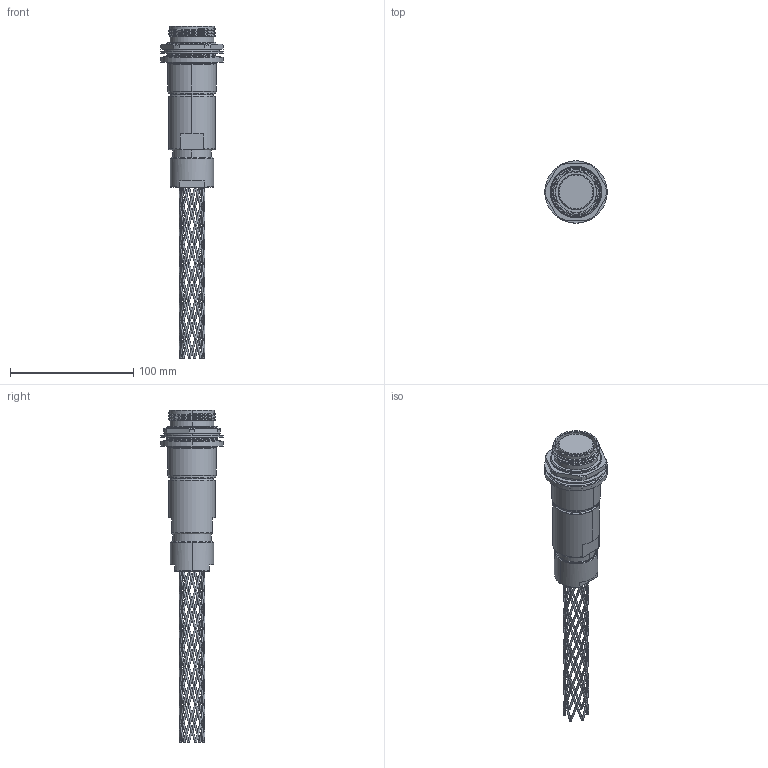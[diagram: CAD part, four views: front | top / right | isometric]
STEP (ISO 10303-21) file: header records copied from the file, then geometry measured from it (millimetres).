
FILE_DESCRIPTION (( 'STEP AP214' ), '1' );
FILE_NAME ('QLINK-RJTX-23XX-GXXX.STEP', '2025-09-30T22:29:11', ( '' ), ( '' ), 'SwSTEP 2.0', 'SolidWorks 2024', '' );
FILE_SCHEMA (( 'AUTOMOTIVE_DESIGN' ));
Products named in the file (1): QLINK-RJTX-23XX-GXXX
Bounding box: 50.55 x 50.55 x 268.99 mm (x, y, z)
Volume: 147271.1 mm3; surface area: 38379.1 mm2
Topology: 2 solids, 2 shells, 449 faces, 1267 edges, 728 vertices
Faces by surface type: bspline 251, cylinder 82, plane 57, cone 37, torus 22
Entity records: 125516 total; most frequent: CARTESIAN_POINT 116843, ORIENTED_EDGE 2534, EDGE_CURVE 1267, DIRECTION 1114, VERTEX_POINT 728, AXIS2_PLACEMENT_3D 479, EDGE_LOOP 473, ADVANCED_FACE 449
